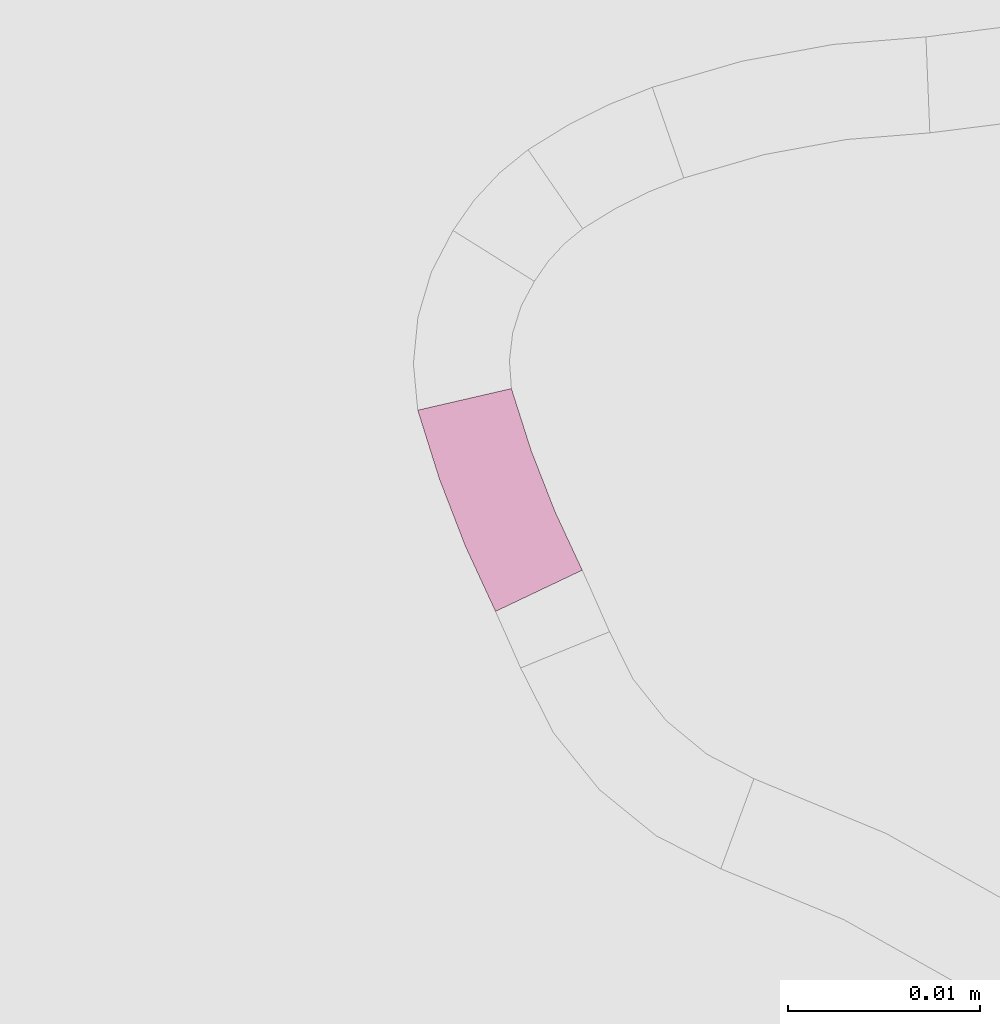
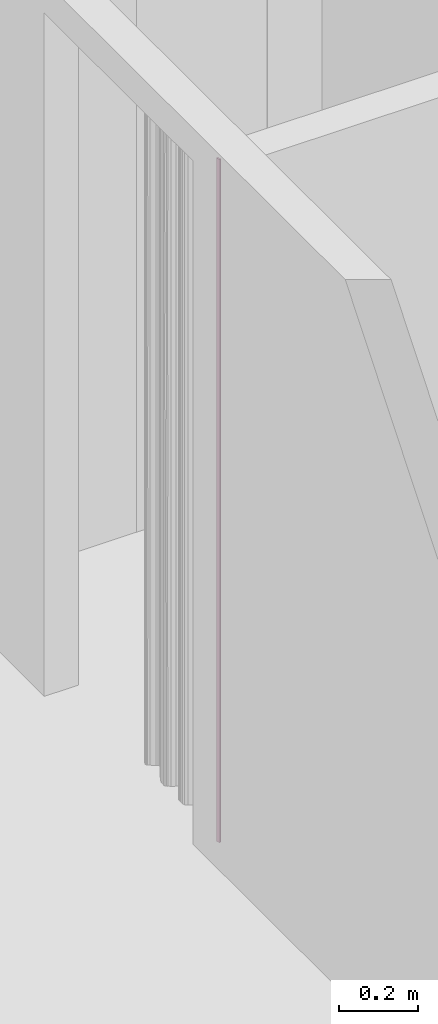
# One storey, part 246 of 418: 1 furnishing.
"""IFC2X3 building model written with IfcOpenShell, lengths in millimetres."""

from ifc_helpers import new_model, entity, si_unit, converted_unit, derived_unit, money_unit, point, direction, frame, frame_2d, origin_with_axes, place, context, subcontext, project, spatial, polyline, circle_curve, parameter, trimmed, segment, composite_curve, outline, extrude, material, type_object, element, save


model = new_model("IFC2X3")

# Units and contexts
model_context = context("Model", 3, precision=0.01, world=origin_with_axes(), true_north=direction((0.0, 1.0)))
body_context = subcontext(model_context, "Body", "Model", "MODEL_VIEW")
ifc_project = project(units=[si_unit("LENGTHUNIT", "METRE", prefix="MILLI"), si_unit("AREAUNIT", "SQUARE_METRE"), si_unit("VOLUMEUNIT", "CUBIC_METRE"), converted_unit("PLANEANGLEUNIT", "DEGREE", entity("IfcPlaneAngleMeasure", 0.0174532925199), si_unit("PLANEANGLEUNIT", "RADIAN"), dimensions=[0, 0, 0, 0, 0, 0, 0]), si_unit("SOLIDANGLEUNIT", "STERADIAN"), money_unit("EUR"), converted_unit("TIMEUNIT", "Year", entity("IfcTimeMeasure", 31556926.0), si_unit("TIMEUNIT", "SECOND"), dimensions=[0, 0, 1, 0, 0, 0, 0]), si_unit("MASSUNIT", "GRAM", prefix="KILO"), si_unit("THERMODYNAMICTEMPERATUREUNIT", "DEGREE_CELSIUS"), si_unit("LUMINOUSINTENSITYUNIT", "LUMEN"), si_unit("ENERGYUNIT", "JOULE", prefix="MEGA"), derived_unit("THERMALCONDUCTANCEUNIT", [(si_unit("POWERUNIT", "WATT"), 1), (si_unit("LENGTHUNIT", "METRE"), -1), (si_unit("THERMODYNAMICTEMPERATUREUNIT", "KELVIN"), -1)]), derived_unit("SPECIFICHEATCAPACITYUNIT", [(si_unit("ENERGYUNIT", "JOULE"), 1), (si_unit("MASSUNIT", "GRAM", prefix="KILO"), -1), (si_unit("THERMODYNAMICTEMPERATUREUNIT", "KELVIN"), -1)]), derived_unit("MASSDENSITYUNIT", [(si_unit("MASSUNIT", "GRAM", prefix="KILO"), 1), (si_unit("VOLUMEUNIT", "CUBIC_METRE"), -1)])], contexts=[model_context])

# Site, building, storey
site_placement = place(None, origin_with_axes())
site = spatial("IfcSite", under=ifc_project, at=site_placement, Name="Paldiski mnt 245/1, Tallinn, Harjumaa", CompositionType="COMPLEX")
building_placement = place(site_placement, origin_with_axes())
building = spatial("IfcBuilding", under=site, at=building_placement, Name="RKAS Hoone üldnimetus (kasutust iseloomustav) -> IFC Project Manager -> SOLIBRI", CompositionType="ELEMENT")
storey_placement = place(building_placement, origin_with_axes())
storey = spatial("IfcBuildingStorey", under=building, at=storey_placement, Name="Esimene korrus", CompositionType="ELEMENT", Elevation=0.0)

# Furnishing
ifc_material = material(Name="KON-00_GENEERILINE - KONSTRUKTSIOON")
furniture_type = type_object("IfcFurnitureType", Name="KON-00_GENEERILINE - KONSTRUKTSIOON 5", AssemblyPlace="NOTDEFINED")
furnishing_placement = place(storey_placement, frame((-45065.0682417, -1385.26965557, 0.0), z_axis=(0.0, 0.0, 1.0), x_axis=(0.26933046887, -0.963047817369, 0.0)))
element("IfcFurnishingElement", 1, at=furnishing_placement, inside=storey, type_object=furniture_type, material=ifc_material, Name="SS-58", context=body_context, shape_type="SweptSolid", body=[
    extrude(outline(composite_curve([segment(trimmed(circle_curve(frame_2d((0.0, 58.5774671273), x_axis=(0.0, -1.0)), 58.5774671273), [point((0.0, 0.0)), parameter(0.0)], [point((11.1847383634, 1.07771684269)), parameter(11.0076035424)], True, "CARTESIAN"), True, "CONTINUOUS"), segment(polyline([(11.1847383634, 1.07771684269), (10.3327868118, 6.00581601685)]), True, "CONTINUOUS"), segment(trimmed(circle_curve(frame_2d((0.0, 58.5774671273), x_axis=(0.00430397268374, -0.999990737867)), 53.5774671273), [point((10.3327868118, 6.00581601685)), parameter(10.8729593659)], [point((0.23059595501, 5.00049624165)), parameter(0.0)], False, "CARTESIAN"), True, "CONTINUOUS"), segment(polyline([(0.23059595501, 5.00049624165), (0.0, 0.0)]), True, "CONTINUOUS")], self_intersect=False)), origin_with_axes(), (0.0, 0.0, 1.0), 2100.0),
])

save(model, "model.ifc")
